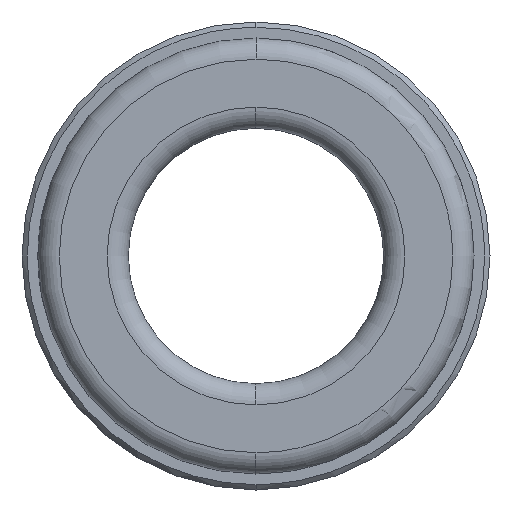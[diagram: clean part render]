
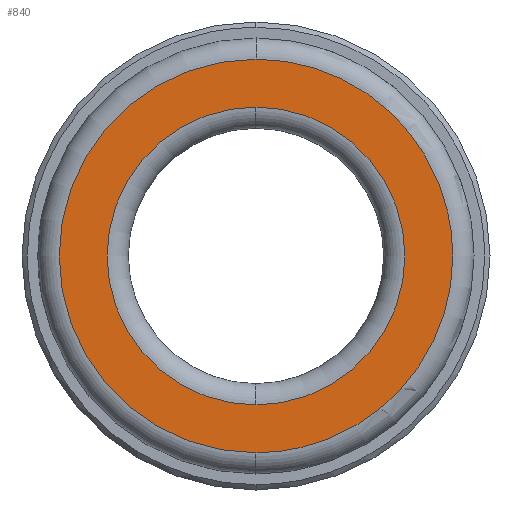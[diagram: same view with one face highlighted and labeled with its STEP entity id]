
A CAD part, left-side view. The second image highlights one B-rep face of the part: STEP entity #840.
In plain terms, the highlighted planar face has unit normal (-1, 0, 0).
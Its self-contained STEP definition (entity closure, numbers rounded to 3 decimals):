
#540=CARTESIAN_POINT('Vertex',(-48.,0.,14.)) ;
#543=CARTESIAN_POINT('Axis2P3D Location',(-48.,0.,0.)) ;
#547=CARTESIAN_POINT('Vertex',(-48.,14.,0.)) ;
#550=CARTESIAN_POINT('Axis2P3D Location',(-48.,0.,0.)) ;
#554=CARTESIAN_POINT('Vertex',(-48.,0.,-14.)) ;
#658=CARTESIAN_POINT('Vertex',(-48.,0.,18.5)) ;
#665=CARTESIAN_POINT('Vertex',(-48.,0.,-18.5)) ;
#668=CARTESIAN_POINT('Axis2P3D Location',(-48.,0.,0.)) ;
#672=CARTESIAN_POINT('Vertex',(-48.,18.5,0.)) ;
#675=CARTESIAN_POINT('Axis2P3D Location',(-48.,0.,0.)) ;
#766=CARTESIAN_POINT('Axis2P3D Location',(-48.,0.,0.)) ;
#770=CARTESIAN_POINT('Vertex',(-48.,-14.,0.)) ;
#773=CARTESIAN_POINT('Axis2P3D Location',(-48.,0.,0.)) ;
#787=CARTESIAN_POINT('Axis2P3D Location',(-48.,18.5,0.)) ;
#793=CARTESIAN_POINT('Control Point',(-48.,-18.5,0.)) ;
#794=CARTESIAN_POINT('Control Point',(-48.,-18.5,-1.686)) ;
#795=CARTESIAN_POINT('Control Point',(-48.,-18.308,-3.371)) ;
#796=CARTESIAN_POINT('Control Point',(-48.,-17.924,-5.028)) ;
#797=CARTESIAN_POINT('Control Point',(-48.,-16.785,-8.224)) ;
#798=CARTESIAN_POINT('Control Point',(-48.,-14.957,-11.083)) ;
#799=CARTESIAN_POINT('Control Point',(-48.,-13.883,-12.402)) ;
#800=CARTESIAN_POINT('Control Point',(-48.,-11.455,-14.771)) ;
#801=CARTESIAN_POINT('Control Point',(-48.,-8.555,-16.534)) ;
#802=CARTESIAN_POINT('Control Point',(-48.,-7.011,-17.245)) ;
#803=CARTESIAN_POINT('Control Point',(-48.,-4.677,-18.012)) ;
#804=CARTESIAN_POINT('Control Point',(-48.,-2.262,-18.384)) ;
#805=CARTESIAN_POINT('Control Point',(-48.,-1.51,-18.461)) ;
#806=CARTESIAN_POINT('Control Point',(-48.,-0.755,-18.5)) ;
#807=CARTESIAN_POINT('Control Point',(-48.,0.,-18.5)) ;
#808=CARTESIAN_POINT('Vertex',(-48.,-18.5,0.)) ;
#812=CARTESIAN_POINT('Control Point',(-48.,0.,18.5)) ;
#813=CARTESIAN_POINT('Control Point',(-48.,-1.686,18.5)) ;
#814=CARTESIAN_POINT('Control Point',(-48.,-3.371,18.308)) ;
#815=CARTESIAN_POINT('Control Point',(-48.,-5.028,17.924)) ;
#816=CARTESIAN_POINT('Control Point',(-48.,-8.224,16.785)) ;
#817=CARTESIAN_POINT('Control Point',(-48.,-11.083,14.957)) ;
#818=CARTESIAN_POINT('Control Point',(-48.,-12.402,13.883)) ;
#819=CARTESIAN_POINT('Control Point',(-48.,-14.771,11.455)) ;
#820=CARTESIAN_POINT('Control Point',(-48.,-16.534,8.555)) ;
#821=CARTESIAN_POINT('Control Point',(-48.,-17.245,7.011)) ;
#822=CARTESIAN_POINT('Control Point',(-48.,-18.012,4.677)) ;
#823=CARTESIAN_POINT('Control Point',(-48.,-18.384,2.262)) ;
#824=CARTESIAN_POINT('Control Point',(-48.,-18.462,1.51)) ;
#825=CARTESIAN_POINT('Control Point',(-48.,-18.5,0.755)) ;
#826=CARTESIAN_POINT('Control Point',(-48.,-18.5,0.)) ;
#544=DIRECTION('Axis2P3D Direction',(1.,-0.,0.)) ;
#551=DIRECTION('Axis2P3D Direction',(1.,-0.,0.)) ;
#669=DIRECTION('Axis2P3D Direction',(1.,-0.,0.)) ;
#676=DIRECTION('Axis2P3D Direction',(1.,-0.,0.)) ;
#767=DIRECTION('Axis2P3D Direction',(1.,0.,-0.)) ;
#774=DIRECTION('Axis2P3D Direction',(1.,0.,-0.)) ;
#788=DIRECTION('Axis2P3D Direction',(-1.,0.,0.)) ;
#789=DIRECTION('Axis2P3D XDirection',(0.,0.,1.)) ;
#545=AXIS2_PLACEMENT_3D('Circle Axis2P3D',#543,#544,$) ;
#552=AXIS2_PLACEMENT_3D('Circle Axis2P3D',#550,#551,$) ;
#670=AXIS2_PLACEMENT_3D('Circle Axis2P3D',#668,#669,$) ;
#677=AXIS2_PLACEMENT_3D('Circle Axis2P3D',#675,#676,$) ;
#768=AXIS2_PLACEMENT_3D('Circle Axis2P3D',#766,#767,$) ;
#775=AXIS2_PLACEMENT_3D('Circle Axis2P3D',#773,#774,$) ;
#790=AXIS2_PLACEMENT_3D('Plane Axis2P3D',#787,#788,#789) ;
#829=ORIENTED_EDGE('',*,*,#674,.F.) ;
#830=ORIENTED_EDGE('',*,*,#810,.F.) ;
#831=ORIENTED_EDGE('',*,*,#827,.F.) ;
#832=ORIENTED_EDGE('',*,*,#679,.F.) ;
#835=ORIENTED_EDGE('',*,*,#549,.T.) ;
#836=ORIENTED_EDGE('',*,*,#777,.T.) ;
#837=ORIENTED_EDGE('',*,*,#772,.T.) ;
#838=ORIENTED_EDGE('',*,*,#556,.T.) ;
#839=FACE_BOUND('',#834,.T.) ;
#840=ADVANCED_FACE('FAMO-SF1-D24 x 80',(#833,#839),#791,.T.) ;
#792=B_SPLINE_CURVE_WITH_KNOTS('',5,(#793,#794,#795,#796,#797,#798,#799,#800,#801,#802,#803,#804,#805,#806,#807),.UNSPECIFIED.,.F.,.U.,(6,3,3,3,6),(0.,11.943,23.885,35.828,41.176),.UNSPECIFIED.) ;
#811=B_SPLINE_CURVE_WITH_KNOTS('',5,(#812,#813,#814,#815,#816,#817,#818,#819,#820,#821,#822,#823,#824,#825,#826),.UNSPECIFIED.,.F.,.U.,(6,3,3,3,6),(0.,11.941,23.883,35.824,41.171),.UNSPECIFIED.) ;
#546=CIRCLE('generated circle',#545,14.) ;
#553=CIRCLE('generated circle',#552,14.) ;
#671=CIRCLE('generated circle',#670,18.5) ;
#678=CIRCLE('generated circle',#677,18.5) ;
#769=CIRCLE('generated circle',#768,14.) ;
#776=CIRCLE('generated circle',#775,14.) ;
#549=EDGE_CURVE('',#548,#541,#546,.T.) ;
#556=EDGE_CURVE('',#555,#548,#553,.T.) ;
#674=EDGE_CURVE('',#666,#673,#671,.T.) ;
#679=EDGE_CURVE('',#673,#659,#678,.T.) ;
#772=EDGE_CURVE('',#771,#555,#769,.T.) ;
#777=EDGE_CURVE('',#541,#771,#776,.T.) ;
#810=EDGE_CURVE('',#809,#666,#792,.T.) ;
#827=EDGE_CURVE('',#659,#809,#811,.T.) ;
#828=EDGE_LOOP('',(#829,#830,#831,#832)) ;
#834=EDGE_LOOP('',(#835,#836,#837,#838)) ;
#833=FACE_OUTER_BOUND('',#828,.T.) ;
#791=PLANE('Plane',#790) ;
#541=VERTEX_POINT('',#540) ;
#548=VERTEX_POINT('',#547) ;
#555=VERTEX_POINT('',#554) ;
#659=VERTEX_POINT('',#658) ;
#666=VERTEX_POINT('',#665) ;
#673=VERTEX_POINT('',#672) ;
#771=VERTEX_POINT('',#770) ;
#809=VERTEX_POINT('',#808) ;
